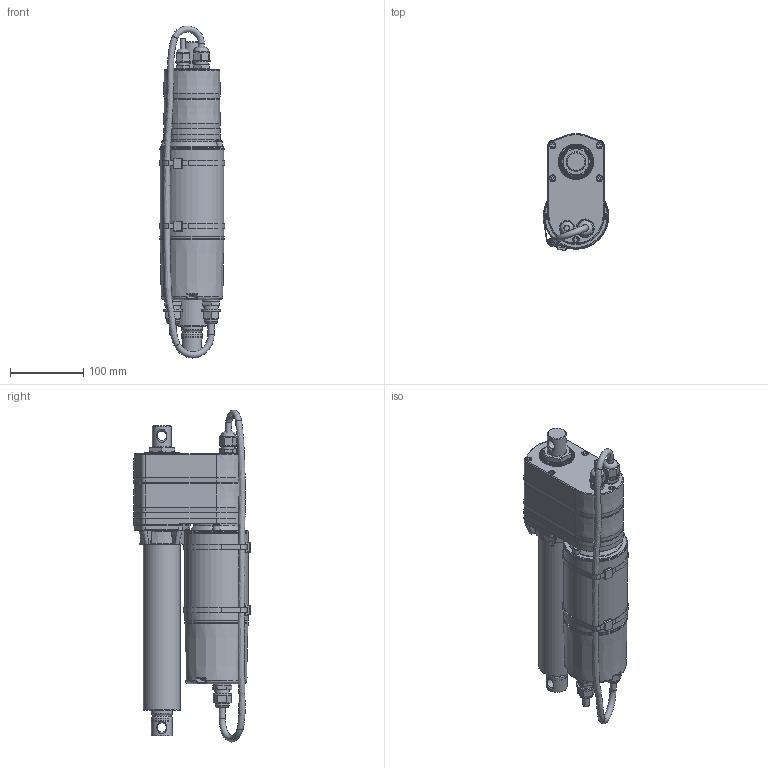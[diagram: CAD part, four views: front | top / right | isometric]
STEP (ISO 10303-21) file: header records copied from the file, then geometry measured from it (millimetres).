
FILE_DESCRIPTION (( 'STEP AP203' ), '1' );
FILE_NAME ('IA5-BALL+LT+POT-102.STEP', '2019-02-27T09:10:02', ( '' ), ( '' ), 'SwSTEP 2.0', 'SolidWorks 2015', '' );
FILE_SCHEMA (( 'CONFIG_CONTROL_DESIGN' ));
Length unit declared in the file: millimetre
Products named in the file (3): IA05-B-1; IA05-B-2; IA5-BALL+LT+POT-102
Assembly tree (2 placements, depth 2):
  IA5-BALL+LT+POT-102
    IA05-B-1
    IA05-B-2
Bounding box: 89.57 x 159.59 x 454.06 mm (x, y, z)
Volume: 3044294.9 mm3; surface area: 283507.2 mm2
Topology: 3 solids, 3 shells, 1209 faces, 3055 edges, 1893 vertices
Faces by surface type: plane 719, cylinder 213, bspline 108, torus 104, cone 59, sphere 6
Full cylindrical faces by diameter (mm): 7 x4, 8.5 x8, 9 x5, 13 x2, 16.5 x2, 18 x1, 19 x2, 20 x3, 21 x1, 22 x1, 24 x2, 25 x3, 26 x1, 28 x1, 28.1 x1, 28.6 x4, 28.62 x1, 48.2 x1, 50.8 x2, 63.5 x1, 87 x3, 88 x3
Entity records: 39929 total; most frequent: CARTESIAN_POINT 13415, ORIENTED_EDGE 5862, DIRECTION 5022, EDGE_CURVE 2931, AXIS2_PLACEMENT_3D 1888, VERTEX_POINT 1865, EDGE_LOOP 1356, FACE_OUTER_BOUND 1283
